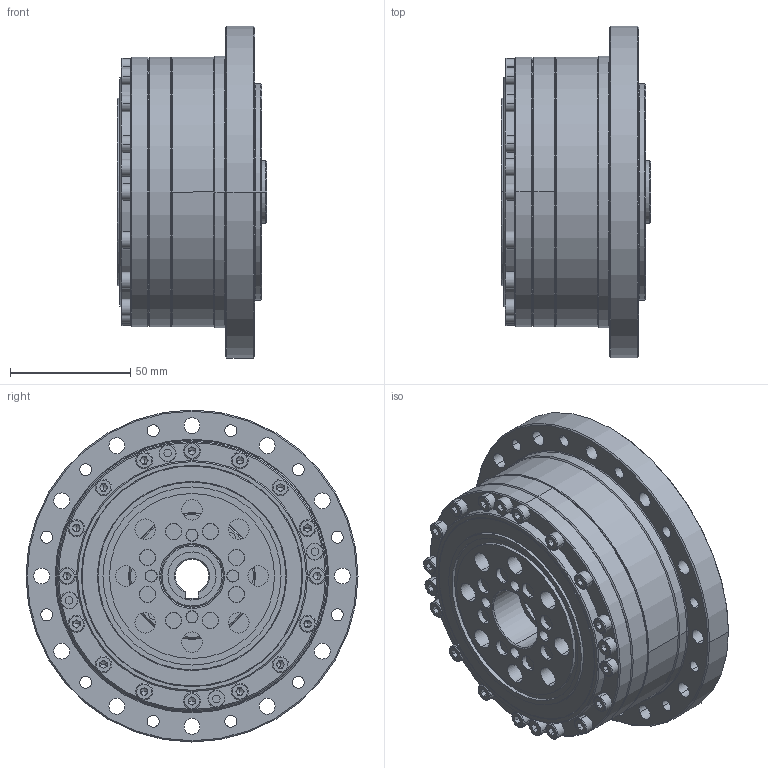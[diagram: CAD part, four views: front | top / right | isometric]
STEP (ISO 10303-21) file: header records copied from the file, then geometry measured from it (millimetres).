
FILE_DESCRIPTION (( 'STEP AP203' ), '1' );
FILE_NAME ('FCG-32-XXX-AO.STEP', '2020-04-20T02:47:29', ( '' ), ( '' ), 'SwSTEP 2.0', 'SolidWorks 2016', '' );
FILE_SCHEMA (( 'CONFIG_CONTROL_DESIGN' ));
Length unit declared in the file: millimetre
Products named in the file (1): FCG-32-XXX-AO
Bounding box: 62 x 138 x 138 mm (x, y, z)
Volume: 429989.3 mm3; surface area: 223213.8 mm2
Topology: 68 solids, 68 shells, 1535 faces, 3669 edges, 2242 vertices
Faces by surface type: cylinder 573, plane 543, cone 227, torus 96, bspline 50, sphere 46
Entity records: 48668 total; most frequent: CARTESIAN_POINT 12739, DIRECTION 8085, ORIENTED_EDGE 6948, EDGE_CURVE 3474, AXIS2_PLACEMENT_3D 3253, VERTEX_POINT 2173, EDGE_LOOP 1879, CIRCLE 1767
